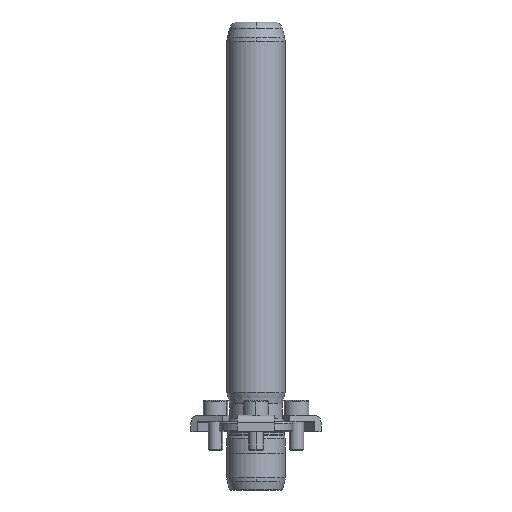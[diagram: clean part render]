
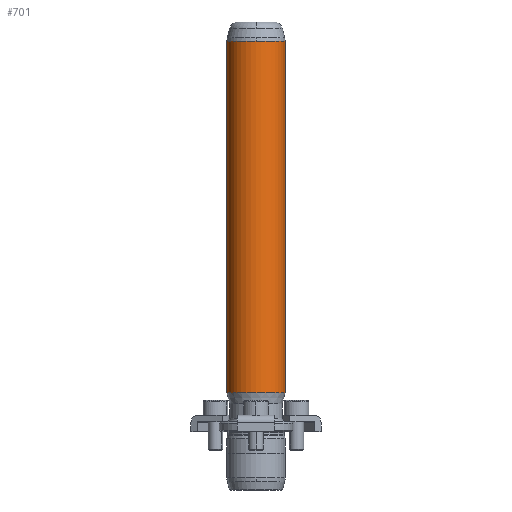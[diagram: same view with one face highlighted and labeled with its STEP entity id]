
A CAD part, front view. The second image highlights one B-rep face of the part: STEP entity #701.
In plain terms, the highlighted cylindrical face has radius 10 mm (diameter 20 mm), a partial arc.
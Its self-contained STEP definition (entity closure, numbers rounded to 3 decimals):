
#614=CARTESIAN_POINT('',(0.0,-10.,133.342));
#615=VERTEX_POINT('',#614);
#642=CARTESIAN_POINT('',(-10.0,0.,133.342));
#643=VERTEX_POINT('',#642);
#651=CARTESIAN_POINT('',(0.0,0.,133.342));
#652=DIRECTION('',(0.0,0.0,1.0));
#653=DIRECTION('',(1.0,0.0,0.0));
#654=AXIS2_PLACEMENT_3D('',#651,#652,#653);
#655=CIRCLE('',#654,10.0);
#656=EDGE_CURVE('',#643,#615,#655,.T.);
#661=CARTESIAN_POINT('',(0.0,0.,73.321));
#662=DIRECTION('',(0.0,0.,1.0));
#663=DIRECTION('',(1.0,0.0,0.0));
#664=AXIS2_PLACEMENT_3D('',#661,#662,#663);
#665=CYLINDRICAL_SURFACE('',#664,10.0);
#666=CARTESIAN_POINT('',(10.0,0.,133.342));
#667=VERTEX_POINT('',#666);
#668=CARTESIAN_POINT('',(10.0,0.,13.3));
#669=VERTEX_POINT('',#668);
#670=CARTESIAN_POINT('',(10.0,0.,133.342));
#671=DIRECTION('',(0.0,0.0,-1.0));
#672=VECTOR('',#671,120.042);
#673=LINE('',#670,#672);
#674=EDGE_CURVE('',#667,#669,#673,.T.);
#675=ORIENTED_EDGE('',*,*,#674,.F.);
#676=CARTESIAN_POINT('',(0.0,0.,133.342));
#677=DIRECTION('',(0.0,0.0,1.0));
#678=DIRECTION('',(1.0,0.0,0.0));
#679=AXIS2_PLACEMENT_3D('',#676,#677,#678);
#680=CIRCLE('',#679,10.0);
#681=EDGE_CURVE('',#615,#667,#680,.T.);
#682=ORIENTED_EDGE('',*,*,#681,.F.);
#683=ORIENTED_EDGE('',*,*,#656,.F.);
#684=CARTESIAN_POINT('',(-10.,0.,13.3));
#685=VERTEX_POINT('',#684);
#686=CARTESIAN_POINT('',(-10.0,0.,133.342));
#687=DIRECTION('',(0.0,0.0,-1.0));
#688=VECTOR('',#687,120.042);
#689=LINE('',#686,#688);
#690=EDGE_CURVE('',#643,#685,#689,.T.);
#691=ORIENTED_EDGE('',*,*,#690,.T.);
#692=CARTESIAN_POINT('',(0.0,0.,13.3));
#693=DIRECTION('',(0.0,0.0,1.0));
#694=DIRECTION('',(1.0,0.0,0.0));
#695=AXIS2_PLACEMENT_3D('',#692,#693,#694);
#696=CIRCLE('',#695,10.0);
#697=EDGE_CURVE('',#685,#669,#696,.T.);
#698=ORIENTED_EDGE('',*,*,#697,.T.);
#699=EDGE_LOOP('',(#675,#682,#683,#691,#698));
#700=FACE_OUTER_BOUND('',#699,.T.);
#701=ADVANCED_FACE('',(#700),#665,.T.);
